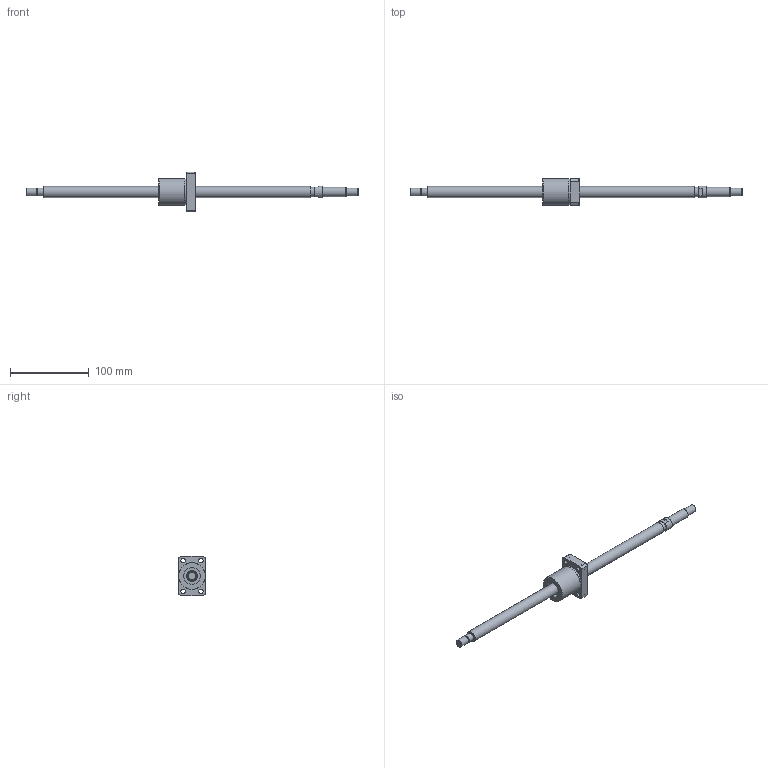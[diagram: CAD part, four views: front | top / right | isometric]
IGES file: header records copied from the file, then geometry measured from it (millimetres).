
Start section: Data from Parasolid IGES Translator 26.0.171, Copyright(c) 2006 Siemens PLM Software. All Rights Reserved.
Global section: file name: BNK1408-2.5RRG0+421LC5Y(192.50).igs; native system: By Siemens PLM Incorporated; preprocessor: XPlus GENERIC/IGES 26.0.171; author: Noname; organization: Noname; date: 20240709.091712; units: millimetre
Bounding box: 421 x 34 x 50 mm (x, y, z)
Surface area: 30162.9 mm2 (no closed solid volume)
Topology: 0 solids, 0 shells, 74 faces, 325 edges, 282 vertices
Faces by surface type: revolution 46, extrusion 28
